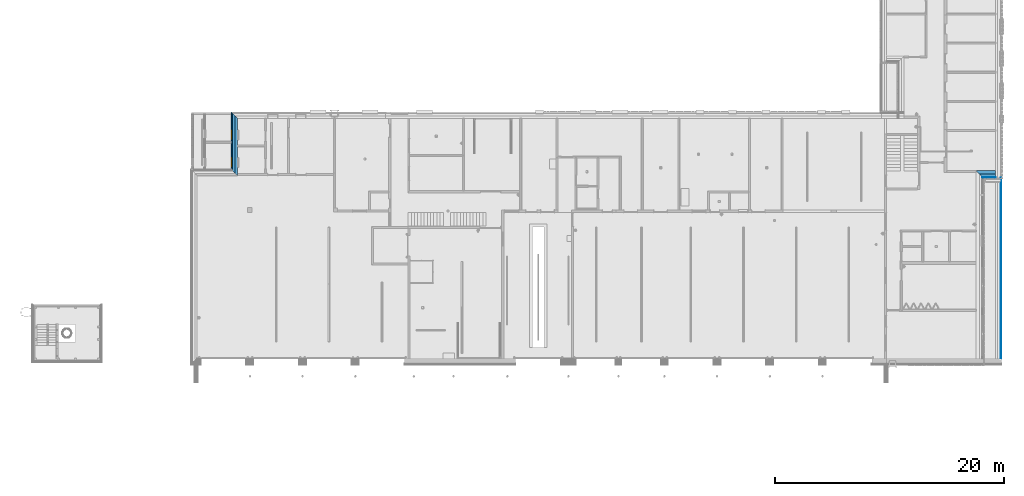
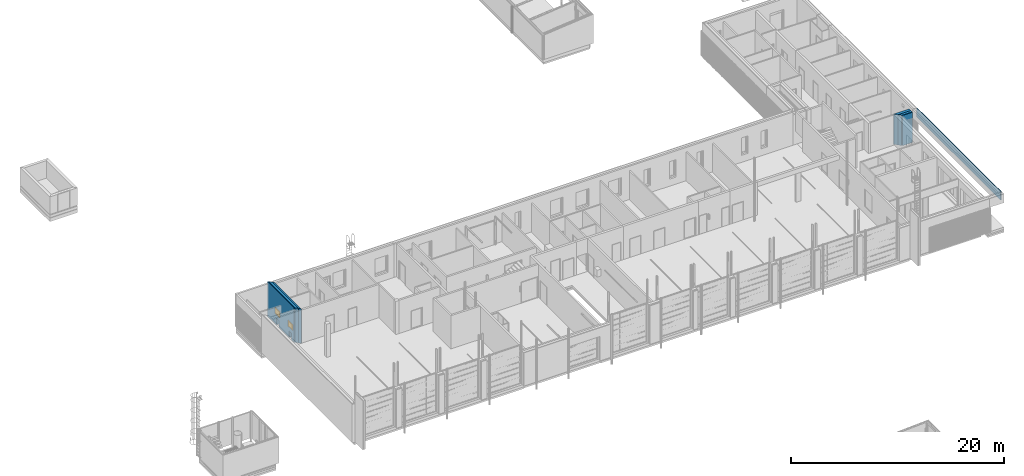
# One storey, part 29 of 112: 8 building element parts, 2 windows, 4 openings, 3 elements without a shape of their own.
"""IFC2X3 building model written with IfcOpenShell, lengths in millimetres."""

from ifc_helpers import new_model, entity, si_unit, converted_unit, derived_unit, money_unit, direction, frame, origin_with_axes, origin_2d_with_axis, place, context, subcontext, project, spatial, polyline, rectangle, outline, extrude, open_shell, faceted_brep, surface_model, source, transform, mapped, material, type_object, element, fill, aggregate, save


model = new_model("IFC2X3")

# Units and contexts
model_context = context("Model", 3, precision=0.01, world=origin_with_axes(), true_north=direction((0.0, 1.0)))
body_context = subcontext(model_context, "Body", "Model", "MODEL_VIEW")
ifc_project = project(units=[si_unit("LENGTHUNIT", "METRE", prefix="MILLI"), si_unit("AREAUNIT", "SQUARE_METRE"), si_unit("VOLUMEUNIT", "CUBIC_METRE"), converted_unit("PLANEANGLEUNIT", "DEGREE", entity("IfcPlaneAngleMeasure", 0.0174532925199), si_unit("PLANEANGLEUNIT", "RADIAN"), dimensions=[0, 0, 0, 0, 0, 0, 0]), si_unit("SOLIDANGLEUNIT", "STERADIAN"), money_unit("EUR"), converted_unit("TIMEUNIT", "Year", entity("IfcTimeMeasure", 31556926.0), si_unit("TIMEUNIT", "SECOND"), dimensions=[0, 0, 1, 0, 0, 0, 0]), si_unit("MASSUNIT", "GRAM", prefix="KILO"), si_unit("THERMODYNAMICTEMPERATUREUNIT", "DEGREE_CELSIUS"), si_unit("LUMINOUSINTENSITYUNIT", "LUMEN"), si_unit("ENERGYUNIT", "JOULE", prefix="MEGA"), derived_unit("THERMALCONDUCTANCEUNIT", [(si_unit("POWERUNIT", "WATT"), 1), (si_unit("LENGTHUNIT", "METRE"), -1), (si_unit("THERMODYNAMICTEMPERATUREUNIT", "KELVIN"), -1)]), derived_unit("SPECIFICHEATCAPACITYUNIT", [(si_unit("ENERGYUNIT", "JOULE"), 1), (si_unit("MASSUNIT", "GRAM", prefix="KILO"), -1), (si_unit("THERMODYNAMICTEMPERATUREUNIT", "KELVIN"), -1)]), derived_unit("MASSDENSITYUNIT", [(si_unit("MASSUNIT", "GRAM", prefix="KILO"), 1), (si_unit("VOLUMEUNIT", "CUBIC_METRE"), -1)])], contexts=[model_context])

# Site, building, storey
site_placement = place(None, origin_with_axes())
site = spatial("IfcSite", under=ifc_project, at=site_placement, Name="Politse- ja Piirivalveameti ning Päästeameti ühishoone", CompositionType="ELEMENT")
building_placement = place(site_placement, origin_with_axes())
building = spatial("IfcBuilding", under=site, at=building_placement, Name="Politse- ja Piirivalveameti ning Päästeameti ühishoone", CompositionType="ELEMENT")
storey_placement = place(building_placement, origin_with_axes())
storey = spatial("IfcBuildingStorey", under=building, at=storey_placement, Name="Esimene korrus", CompositionType="ELEMENT", Elevation=0.0)

# Window
window_style = type_object("IfcWindowStyle", Name="Window 23", ConstructionType="NOTDEFINED", OperationType="SINGLE_PANEL", ParameterTakesPrecedence=False, Sizeable=False)
shared_shape = source(origin_with_axes(), body_context, "Body", "SurfaceModel", [
    faceted_brep([(-425.0, 0.0, 650.0), (-450.0, 0.0, 650.0), (-450.0, -50.0, 650.0), (-400.0, -50.0, 650.0), (-400.0, -25.0, 650.0), (-425.0, -25.0, 650.0), (-425.0, 0.0, 50.0), (-450.0, 0.0, 50.0), (-450.0, -50.0, 50.0), (-400.0, -50.0, 50.0), (-400.0, -25.0, 50.0), (-425.0, -25.0, 50.0)], [[[0, 1, 2, 3, 4, 5]], [[6, 7, 1, 0]], [[1, 7, 8, 2]], [[2, 8, 9, 3]], [[4, 3, 9, 10]], [[10, 11, 5, 4]], [[5, 11, 6, 0]], [[11, 10, 9, 8, 7, 6]]]),
    faceted_brep([(400.0, -25.0, 650.0), (400.0, -50.0, 650.0), (450.0, -50.0, 650.0), (450.0, 0.0, 650.0), (425.0, 0.0, 650.0), (425.0, -25.0, 650.0), (400.0, -25.0, 50.0), (400.0, -50.0, 50.0), (450.0, -50.0, 50.0), (450.0, 0.0, 50.0), (425.0, 0.0, 50.0), (425.0, -25.0, 50.0)], [[[0, 1, 2, 3, 4, 5]], [[6, 7, 1, 0]], [[8, 2, 1, 7]], [[9, 3, 2, 8]], [[4, 3, 9, 10]], [[10, 11, 5, 4]], [[5, 11, 6, 0]], [[11, 10, 9, 8, 7, 6]]]),
    faceted_brep([(400.0, -25.0, 50.0), (400.0, -50.0, 50.0), (450.0, -50.0, 50.0), (450.0, 0.0, 50.0), (425.0, 0.0, 50.0), (425.0, -25.0, 50.0), (-400.0, -25.0, 50.0), (-400.0, -50.0, 50.0), (-450.0, -50.0, 50.0), (-450.0, -50.0, 0.0), (450.0, -50.0, 0.0), (450.0, 0.0, 0.0), (-425.0, 0.0, 25.0), (425.0, 0.0, 25.0), (-450.0, 0.0, 0.0), (-450.0, 0.0, 50.0), (-425.0, 0.0, 50.0), (425.0, -25.0, 25.0), (-425.0, -25.0, 25.0), (-425.0, -25.0, 50.0)], [[[0, 1, 2, 3, 4, 5]], [[6, 7, 1, 0]], [[8, 9, 10, 2, 1, 7]], [[11, 3, 2, 10]], [[12, 13, 4, 3, 11, 14, 15, 16]], [[13, 17, 5, 4]], [[5, 17, 18, 19, 6, 0]], [[19, 16, 15, 8, 7, 6]], [[15, 14, 9, 8]], [[14, 11, 10, 9]], [[12, 18, 17, 13]], [[19, 18, 12, 16]]]),
    faceted_brep([(-425.0, 0.0, 650.0), (-450.0, 0.0, 650.0), (-450.0, 0.0, 700.0), (450.0, 0.0, 700.0), (450.0, 0.0, 650.0), (425.0, 0.0, 650.0), (425.0, 0.0, 675.0), (-425.0, 0.0, 675.0), (-425.0, -25.0, 650.0), (-400.0, -25.0, 650.0), (-400.0, -50.0, 650.0), (-450.0, -50.0, 650.0), (-450.0, -50.0, 700.0), (450.0, -50.0, 700.0), (450.0, -50.0, 650.0), (425.0, -25.0, 650.0), (400.0, -50.0, 650.0), (400.0, -25.0, 650.0), (425.0, -25.0, 675.0), (-425.0, -25.0, 675.0)], [[[0, 1, 2, 3, 4, 5, 6, 7]], [[8, 9, 10, 11, 1, 0]], [[2, 1, 11, 12]], [[3, 2, 12, 13]], [[4, 3, 13, 14]], [[15, 5, 4, 14, 16, 17]], [[5, 15, 18, 6]], [[6, 18, 19, 7]], [[7, 19, 8, 0]], [[17, 9, 8, 19, 18, 15]], [[17, 16, 10, 9]], [[14, 13, 12, 11, 10, 16]]]),
    faceted_brep([(-375.0, -25.0, 625.0), (-375.0, 25.0, 625.0), (-425.0, 25.0, 625.0), (-425.0, -25.0, 625.0), (-375.0, -25.0, 75.0), (-375.0, 25.0, 75.0), (-425.0, 25.0, 75.0), (-425.0, -25.0, 75.0)], [[[0, 1, 2, 3]], [[4, 5, 1, 0]], [[1, 5, 6, 2]], [[3, 2, 6, 7]], [[0, 3, 7, 4]], [[7, 6, 5, 4]]]),
    faceted_brep([(375.0, -25.0, 75.0), (375.0, 25.0, 75.0), (425.0, 25.0, 75.0), (425.0, -25.0, 75.0), (375.0, -25.0, 625.0), (375.0, 25.0, 625.0), (425.0, 25.0, 625.0), (425.0, -25.0, 625.0)], [[[0, 1, 2, 3]], [[4, 5, 1, 0]], [[1, 5, 6, 2]], [[3, 2, 6, 7]], [[0, 3, 7, 4]], [[7, 6, 5, 4]]]),
    faceted_brep([(425.0, -25.0, 25.0), (425.0, 25.0, 25.0), (425.0, 25.0, 75.0), (425.0, -25.0, 75.0), (-425.0, -25.0, 25.0), (-425.0, 25.0, 25.0), (-425.0, 25.0, 75.0), (-375.0, 25.0, 75.0), (375.0, 25.0, 75.0), (375.0, -25.0, 75.0), (-375.0, -25.0, 75.0), (-425.0, -25.0, 75.0)], [[[0, 1, 2, 3]], [[4, 5, 1, 0]], [[1, 5, 6, 7, 8, 2]], [[3, 2, 8, 9]], [[0, 3, 9, 10, 11, 4]], [[11, 6, 5, 4]], [[10, 7, 6, 11]], [[9, 8, 7, 10]]]),
    faceted_brep([(-425.0, -25.0, 675.0), (-425.0, 25.0, 675.0), (-425.0, 25.0, 625.0), (-425.0, -25.0, 625.0), (425.0, -25.0, 675.0), (425.0, 25.0, 675.0), (425.0, 25.0, 625.0), (375.0, 25.0, 625.0), (-375.0, 25.0, 625.0), (-375.0, -25.0, 625.0), (375.0, -25.0, 625.0), (425.0, -25.0, 625.0)], [[[0, 1, 2, 3]], [[4, 5, 1, 0]], [[1, 5, 6, 7, 8, 2]], [[3, 2, 8, 9]], [[0, 3, 9, 10, 11, 4]], [[11, 6, 5, 4]], [[10, 7, 6, 11]], [[9, 8, 7, 10]]]),
    surface_model("IfcShellBasedSurfaceModel", [(-375.0, -10.0, 75.0), (375.0, -10.0, 75.0), (375.0, -10.0, 625.0), (-375.0, -10.0, 625.0)], [open_shell([[[0, 1, 2, 3]]])]),
    surface_model("IfcShellBasedSurfaceModel", [(-375.0, 10.0, 75.0), (-375.0, 10.0, 625.0), (375.0, 10.0, 625.0), (375.0, 10.0, 75.0)], [open_shell([[[0, 1, 2, 3]]])]),
])
wall_1_placement = place(storey_placement, frame((3500.00534722, 16000.0244444, 0.0), z_axis=(0.0, 0.0, 1.0), x_axis=(0.0, 1.0, 0.0)))
opening_1_placement = place(wall_1_placement, frame((1160.0, 0.0, 1200.0), z_axis=(0.0, 0.0, 1.0), x_axis=(1.0, 0.0, 0.0)))
window_1_placement = place(opening_1_placement, frame((-450.0, 0.0, 0.0), z_axis=(0.0, 0.0, 1.0), x_axis=(1.0, 0.0, 0.0)))
window_1 = element("IfcWindow", 1, at=window_1_placement, inside=storey, type_object=window_style, Name="A-05", ObjectType="WINDOW", OverallHeight=700.0, OverallWidth=900.0, context=body_context, shape_type="MappedRepresentation", body=[
    mapped(shared_shape, transform((450.0, 510.0, 0.0))),
])

opening_2_placement = place(wall_1_placement, frame((3560.25548115, 0.0, 1200.0), z_axis=(0.0, 0.0, 1.0), x_axis=(1.0, 0.0, 0.0)))
window_2_placement = place(opening_2_placement, frame((-450.0, 0.0, 0.0), z_axis=(0.0, 0.0, 1.0), x_axis=(1.0, 0.0, 0.0)))
window_2 = element("IfcWindow", 2, at=window_2_placement, inside=storey, type_object=window_style, Name="A-05", ObjectType="WINDOW", OverallHeight=700.0, OverallWidth=900.0, context=body_context, shape_type="MappedRepresentation", body=[
    mapped(shared_shape, transform((450.0, 510.0, 0.0))),
])

# Wall, opening
wall_type_1 = type_object("IfcWallType", Name="VS-01_välissein 510", PredefinedType="NOTDEFINED")
wall_1 = element("IfcWall", 3, at=wall_1_placement, inside=storey, type_object=wall_type_1, Name="VS-01")
opening_1 = element("IfcOpeningElement", 4, at=opening_1_placement, cuts=wall_1, Name="A-05", context=body_context, shape_type="SweptSolid", body=[
    extrude(rectangle(XDim=900.0, YDim=700.0, at=origin_2d_with_axis()), frame((0.0, -510.0, 350.0), z_axis=(0.0, 1.0, 0.0), x_axis=(1.0, 0.0, 0.0)), (0.0, 0.0, 1.0), 1530.0),
])

fill(opening_1, window_1)

# Opening
opening_2 = element("IfcOpeningElement", 5, at=opening_2_placement, cuts=wall_1, Name="A-05", context=body_context, shape_type="SweptSolid", body=[
    extrude(rectangle(XDim=900.0, YDim=700.0, at=origin_2d_with_axis()), frame((0.0, -510.0, 350.0), z_axis=(0.0, 1.0, 0.0), x_axis=(1.0, 0.0, 0.0)), (0.0, 0.0, 1.0), 1530.0),
])

fill(opening_2, window_2)

opening_3_placement = place(wall_1_placement, frame((3560.25548115, 0.0, 0.0), z_axis=(0.0, 0.0, 1.0), x_axis=(1.0, 0.0, 0.0)))
element("IfcOpeningElement", 6, at=opening_3_placement, cuts=wall_1, Name="TÜHI AVA", context=body_context, shape_type="SweptSolid", body=[
    extrude(rectangle(XDim=450.0, YDim=750.0, at=origin_2d_with_axis()), frame((0.0, -510.0, 375.0), z_axis=(0.0, 1.0, 0.0), x_axis=(-1.0, 0.0, 0.0)), (0.0, 0.0, 1.0), 1530.0),
])

opening_4_placement = place(wall_1_placement, frame((1160.0, 0.0, 0.0), z_axis=(0.0, 0.0, 1.0), x_axis=(1.0, 0.0, 0.0)))
element("IfcOpeningElement", 7, at=opening_4_placement, cuts=wall_1, Name="TÜHI AVA", context=body_context, shape_type="SweptSolid", body=[
    extrude(rectangle(XDim=450.0, YDim=750.0, at=origin_2d_with_axis()), frame((0.0, -510.0, 375.0), z_axis=(0.0, 1.0, 0.0), x_axis=(-1.0, 0.0, 0.0)), (0.0, 0.0, 1.0), 1530.0),
])

# Building element part
ifc_material_1 = material(Name="KON-04_Betoon - Konstuktsioon")
building_element_part_1_placement = place(wall_1_placement, origin_with_axes())
building_element_part_1 = element("IfcBuildingElementPart", 8, at=building_element_part_1_placement, material=ifc_material_1, Name="KON-04_Betoon - Konstuktsioon", context=body_context, shape_type="SweptSolid", body=[
    extrude(outline(polyline([(0.0, 0.0), (4999.92763877, 0.0), (5179.92763877, 180.0), (180.0, 180.0), (0.0, 0.0)])), origin_with_axes(), (0.0, 0.0, 1.0), 3960.0),
])

ifc_material_2 = material(Name="SOJ-06_Soojustus - Plastik Kõva")
building_element_part_2_placement = place(wall_1_placement, origin_with_axes())
building_element_part_2 = element("IfcBuildingElementPart", 9, at=building_element_part_2_placement, material=ifc_material_2, Name="SOJ-06_Soojustus - Plastik Kõva", context=body_context, shape_type="SweptSolid", body=[
    extrude(outline(polyline([(180.0, 180.0), (5179.92763877, 180.0), (5429.92763877, 430.0), (430.0, 430.0), (180.0, 180.0)])), origin_with_axes(), (0.0, 0.0, 1.0), 3960.0),
])

building_element_part_3_placement = place(wall_1_placement, origin_with_axes())
building_element_part_3 = element("IfcBuildingElementPart", 10, at=building_element_part_3_placement, material=ifc_material_1, Name="KON-04_Betoon - Konstuktsioon", context=body_context, shape_type="SweptSolid", body=[
    extrude(outline(polyline([(430.0, 430.0), (5429.92763877, 430.0), (5509.92763877, 510.0), (510.0, 510.0), (430.0, 430.0)])), origin_with_axes(), (0.0, 0.0, 1.0), 3960.0),
])

aggregate(wall_1, [building_element_part_1, building_element_part_2, building_element_part_3])

# Wall, building element parts
wall_type_2 = type_object("IfcWallType", Name="VS-03_välissein paneel300 + fassaadikassett 620", PredefinedType="NOTDEFINED")
wall_2_placement = place(storey_placement, frame((69660.5664257, 16422.809139, 0.0), z_axis=(0.0, 0.0, 1.0), x_axis=(-1.0, 0.0, 0.0)))
wall_2 = element("IfcWall", 11, at=wall_2_placement, inside=storey, type_object=wall_type_2, Name="VS-03")
building_element_part_4_placement = place(wall_2_placement, origin_with_axes())
building_element_part_4 = element("IfcBuildingElementPart", 12, at=building_element_part_4_placement, material=ifc_material_1, Name="KON-04_Betoon - Konstuktsioon", context=body_context, shape_type="SweptSolid", body=[
    extrude(outline(polyline([(0.0, 0.0), (1700.00259722, 0.0), (1400.00259722, 300.0), (0.0, 300.0), (0.0, 0.0)])), origin_with_axes(), (0.0, 0.0, 1.0), 3460.0),
])
building_element_part_5_placement = place(wall_2_placement, origin_with_axes())
building_element_part_5 = element("IfcBuildingElementPart", 13, at=building_element_part_5_placement, material=ifc_material_2, Name="SOJ-06_Soojustus - Plastik Kõva", context=body_context, shape_type="SweptSolid", body=[
    extrude(outline(polyline([(0.0, 300.0), (1400.00259722, 300.0), (1150.00259722, 550.0), (0.0, 550.0), (0.0, 300.0)])), origin_with_axes(), (0.0, 0.0, 1.0), 3460.0),
])
ifc_material_3 = material(Name="Õhkvahe - Raam")
building_element_part_6_placement = place(wall_2_placement, origin_with_axes())
building_element_part_6 = element("IfcBuildingElementPart", 14, at=building_element_part_6_placement, material=ifc_material_3, Name="Õhkvahe - Raam", context=body_context, shape_type="SweptSolid", body=[
    extrude(outline(polyline([(0.0, 550.0), (1150.00259722, 550.0), (1120.00259722, 580.0), (0.0, 580.0), (0.0, 550.0)])), origin_with_axes(), (0.0, 0.0, 1.0), 3460.0),
])
ifc_material_4 = material(Name="GENEERILINE - VÄLINE VOODER")
building_element_part_7_placement = place(wall_2_placement, origin_with_axes())
building_element_part_7 = element("IfcBuildingElementPart", 15, at=building_element_part_7_placement, material=ifc_material_4, Name="GENEERILINE - VÄLINE VOODER", context=body_context, shape_type="SweptSolid", body=[
    extrude(outline(polyline([(0.0, 580.0), (1120.00259722, 580.0), (1080.00259722, 620.0), (0.0, 620.0), (0.0, 580.0)])), origin_with_axes(), (0.0, 0.0, 1.0), 3460.0),
])
aggregate(wall_2, [building_element_part_4, building_element_part_5, building_element_part_6, building_element_part_7])

# Wall, building element part
wall_3_placement = place(storey_placement, frame((69660.5664257, 15802.809139, 2799.5350048), z_axis=(0.0, 0.0, 1.0), x_axis=(0.0, -1.0, 0.0)))
wall_3 = element("IfcWall", 16, at=wall_3_placement, inside=storey, type_object=wall_type_1, Name="VS-01")
building_element_part_8_placement = place(wall_3_placement, origin_with_axes())
building_element_part_8 = element("IfcBuildingElementPart", 17, at=building_element_part_8_placement, material=ifc_material_1, Name="KON-04_Betoon - Konstuktsioon", context=body_context, shape_type="SweptSolid", body=[
    extrude(outline(polyline([(0.0, 430.0), (15802.809139, 430.0), (15802.809139, 510.0), (0.0, 510.0), (0.0, 430.0)])), origin_with_axes(), (0.0, 0.0, 1.0), 1000.4649952),
])
aggregate(wall_3, [building_element_part_8])

save(model, "model.ifc")
